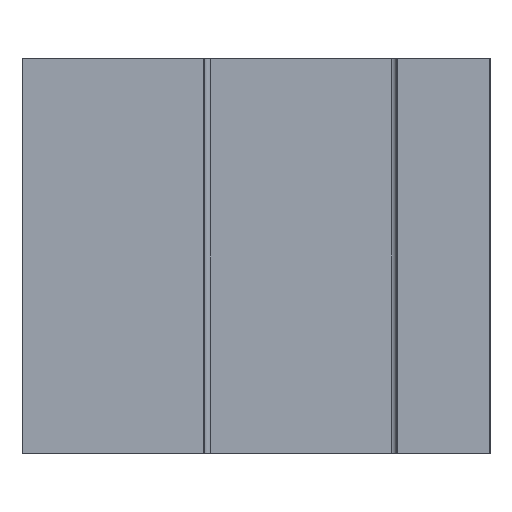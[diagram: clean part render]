
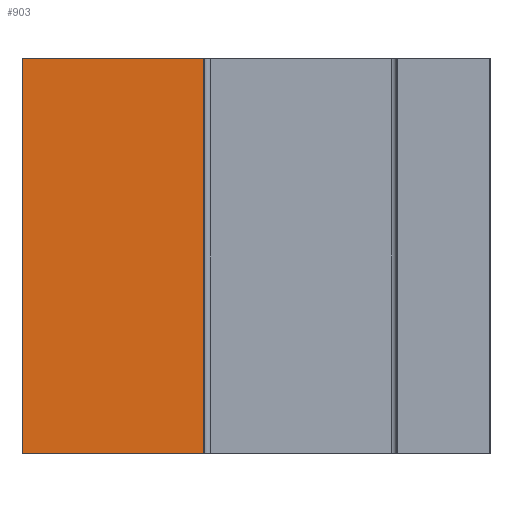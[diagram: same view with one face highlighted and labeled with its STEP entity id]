
A CAD part, front view. The second image highlights one B-rep face of the part: STEP entity #903.
In plain terms, the highlighted planar face has unit normal (0, -1, 0).
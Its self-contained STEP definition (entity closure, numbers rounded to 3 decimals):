
#751 = EDGE_CURVE( '', #1507, #945, #1869, .T. );
#903 = ADVANCED_FACE( '', ( #2032 ), #2033, .T. );
#905 = EDGE_CURVE( '', #1507, #973, #2035, .T. );
#945 = VERTEX_POINT( '', #2083 );
#973 = VERTEX_POINT( '', #2118 );
#1047 = VERTEX_POINT( '', #2206 );
#1099 = EDGE_CURVE( '', #945, #1047, #2265, .T. );
#1381 = EDGE_CURVE( '', #973, #1047, #2584, .T. );
#1507 = VERTEX_POINT( '', #2727 );
#1869 = LINE( '', #3171, #3172 );
#2032 = FACE_OUTER_BOUND( '', #3404, .T. );
#2033 = PLANE( '', #3405 );
#2035 = LINE( '', #3408, #3409 );
#2083 = CARTESIAN_POINT( '', ( -28.9, 2., -41. ) );
#2118 = CARTESIAN_POINT( '', ( -10.1, 2., 0. ) );
#2206 = CARTESIAN_POINT( '', ( -10.1, 2., -41. ) );
#2265 = LINE( '', #3704, #3705 );
#2584 = LINE( '', #4137, #4138 );
#2727 = CARTESIAN_POINT( '', ( -28.9, 2., 0. ) );
#3171 = CARTESIAN_POINT( '', ( -28.9, 2., 0. ) );
#3172 = VECTOR( '', #4748, 1. );
#3404 = EDGE_LOOP( '', ( #4886, #4887, #4888, #4889 ) );
#3405 = AXIS2_PLACEMENT_3D( '', #4890, #4891, #4892 );
#3408 = CARTESIAN_POINT( '', ( -28.9, 2., 0. ) );
#3409 = VECTOR( '', #4893, 1. );
#3704 = CARTESIAN_POINT( '', ( -28.9, 2., -41. ) );
#3705 = VECTOR( '', #5200, 1. );
#4137 = CARTESIAN_POINT( '', ( -10.1, 2., 0. ) );
#4138 = VECTOR( '', #5579, 1. );
#4748 = DIRECTION( '', ( 0., 0., -1. ) );
#4886 = ORIENTED_EDGE( '', *, *, #1099, .T. );
#4887 = ORIENTED_EDGE( '', *, *, #1381, .F. );
#4888 = ORIENTED_EDGE( '', *, *, #905, .F. );
#4889 = ORIENTED_EDGE( '', *, *, #751, .T. );
#4890 = CARTESIAN_POINT( '', ( -28.9, 2., 0. ) );
#4891 = DIRECTION( '', ( 0., -1., 0. ) );
#4892 = DIRECTION( '', ( -1., 0., 0. ) );
#4893 = DIRECTION( '', ( 1., 0., 0. ) );
#5200 = DIRECTION( '', ( 1., 0., 0. ) );
#5579 = DIRECTION( '', ( 0., 0., -1. ) );
